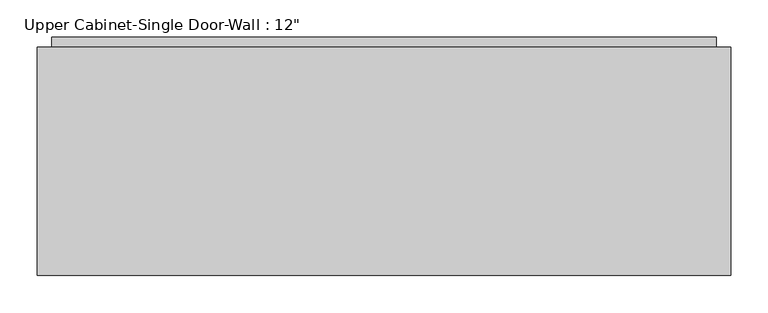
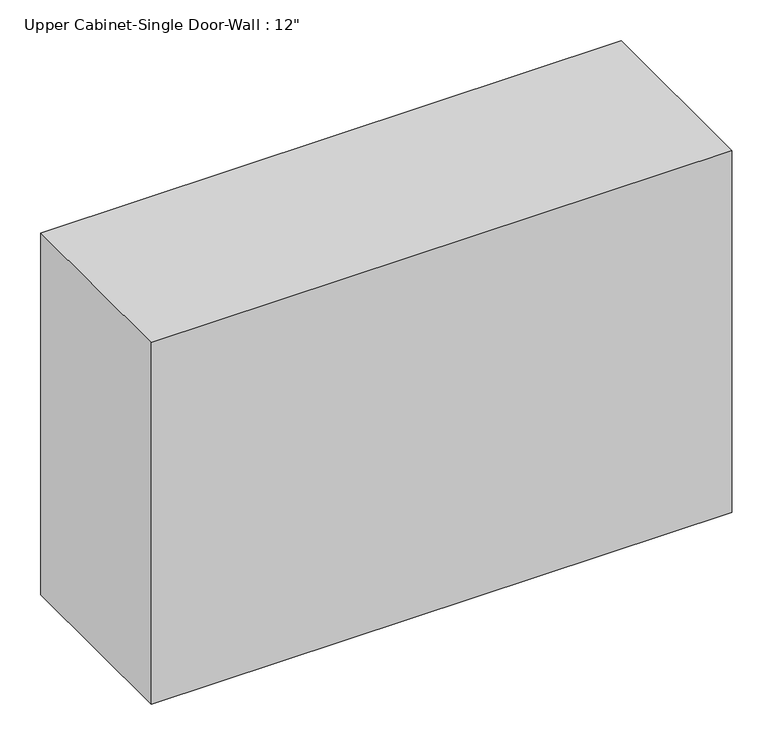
"""IFC4 building model written with IfcOpenShell, lengths in millimetres: furniture geometry."""

from ifc_helpers import new_model, si_unit, frame, origin, place, context, project, spatial, polyline, outline, extrude, faceted_brep, source, transform, mapped, element, save


def furniture_9a3261b4(model_context):
    return source(origin(), model_context, "Body", "SolidModel", [
        faceted_brep([(-665.7772553, 76.2, 2133.6), (-665.7772553, 76.2, 1524.0), (258.3711628, 76.2, 1524.0), (258.3711628, 76.2, 2133.6), (-665.7772553, 381.0, 2133.6), (258.3711628, 381.0, 2133.6), (258.3711628, 381.0, 1524.0), (-665.7772553, 381.0, 1524.0), (-646.7272553, 381.0, 2114.55), (-646.7272553, 381.0, 1543.05), (239.3211628, 381.0, 1543.05), (239.3211628, 381.0, 2114.55), (239.3211628, 95.25, 2114.55), (-646.7272553, 95.25, 2114.55), (239.3211628, 95.25, 1543.05), (-646.7272553, 95.25, 1543.05)], [[[0, 1, 2, 3]], [[4, 5, 6, 7], [8, 9, 10, 11]], [[1, 0, 4, 7]], [[2, 1, 7, 6]], [[3, 2, 6, 5]], [[0, 3, 5, 4]], [[8, 11, 12, 13]], [[11, 10, 14, 12]], [[10, 9, 15, 14]], [[9, 8, 13, 15]], [[13, 12, 14, 15]]]),
        extrude(outline(polyline([(-646.7272553, 393.7), (239.3211628, 393.7), (239.3211628, 361.95), (-646.7272553, 361.95), (-646.7272553, 393.7)])), frame((0.0, 0.0, 1543.05), z_axis=(0.0, 0.0, 1.0), x_axis=(1.0, 0.0, 0.0)), (0.0, 0.0, 1.0), 571.5),
    ])


if __name__ == "__main__":
    model = new_model("IFC4")
    model_context = context("Model", 3, world=origin())
    ifc_project = project(units=[si_unit("LENGTHUNIT", "METRE", prefix="MILLI")], contexts=[model_context])
    site = spatial("IfcSite", under=ifc_project)
    building = spatial("IfcBuilding", under=site)
    placement = place(None, origin())
    furniture_shape = furniture_9a3261b4(model_context)
    element("IfcFurniture", 1, ObjectType="Upper Cabinet-Single Door-Wall : 12\"", at=placement, inside=building, context=model_context, shape_type="MappedRepresentation", body=[
        mapped(furniture_shape, transform((0.0, 0.0, 0.0), x_axis=(1.0, 0.0, 0.0), y_axis=(0.0, 1.0, 0.0), z_axis=(0.0, 0.0, 1.0))),
    ])
    save(model, "model.ifc")
